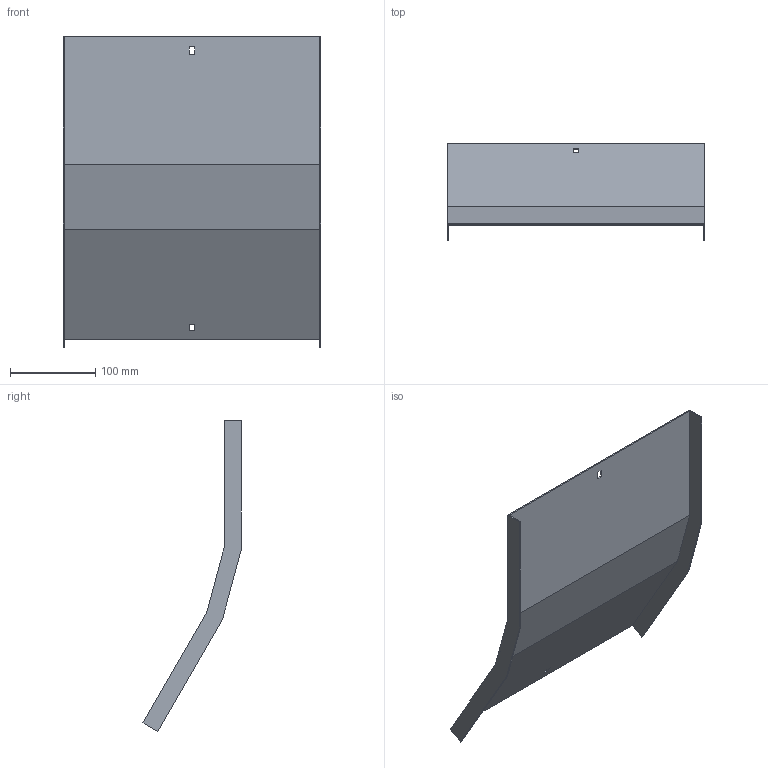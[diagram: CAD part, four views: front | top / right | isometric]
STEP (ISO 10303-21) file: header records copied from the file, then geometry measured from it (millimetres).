
FILE_DESCRIPTION (( 'STEP AP214' ), '1' );
FILE_NAME ('A2X32N3R300X.step', '2025-03-20T09:38:51', ( '' ), ( '' ), 'SwSTEP 2.0', 'SolidWorks 2023', '' );
FILE_SCHEMA (( 'AUTOMOTIVE_DESIGN' ));
Length unit declared in the file: millimetre
Products named in the file (1): A2X32N3R300X
Bounding box: 303 x 115.32 x 365.74 mm (x, y, z)
Volume: 193353.2 mm3; surface area: 260083.2 mm2
Topology: 1 solids, 1 shells, 26 faces, 72 edges, 48 vertices
Faces by surface type: plane 26
Entity records: 847 total; most frequent: CARTESIAN_POINT 147, ORIENTED_EDGE 144, DIRECTION 126, EDGE_CURVE 72, LINE 72, VECTOR 72, VERTEX_POINT 48, EDGE_LOOP 30
